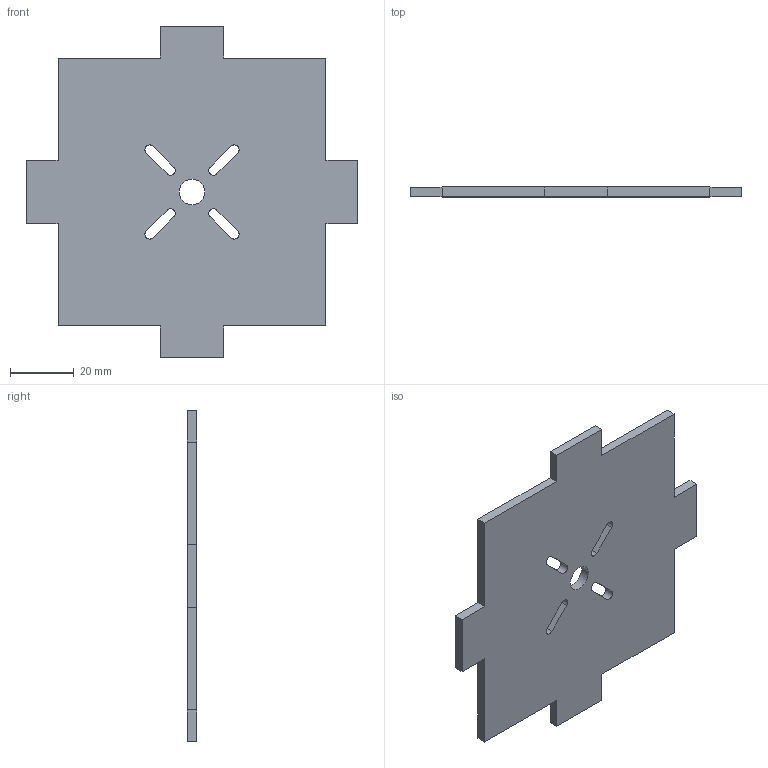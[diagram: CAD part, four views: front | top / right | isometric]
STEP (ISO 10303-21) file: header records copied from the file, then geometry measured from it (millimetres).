
FILE_DESCRIPTION(/* description */ (''),/* implementation_level */ '2;1');
FILE_NAME(/* name */ 'Motor Mount.step',/* time_stamp */ '2023-08-12T23:52:07+03:00',/* author */ (''),/* organization */ (''),/* preprocessor_version */ 'ST-DEVELOPER v20',/* originating_system */ 'Autodesk Translation Framework v12.9.0.99',/* authorisation */ '');
FILE_SCHEMA (('AUTOMOTIVE_DESIGN { 1 0 10303 214 3 1 1 }'));
Length unit declared in the file: millimetre
Products named in the file (1): Motor Mount
Bounding box: 104 x 3 x 104 mm (x, y, z)
Volume: 22999.4 mm3; surface area: 16991.4 mm2
Topology: 1 solids, 1 shells, 39 faces, 111 edges, 74 vertices
Faces by surface type: plane 30, cylinder 9
Full cylindrical faces by diameter (mm): 8 x1
Entity records: 1316 total; most frequent: CARTESIAN_POINT 225, ORIENTED_EDGE 222, DIRECTION 209, EDGE_CURVE 111, LINE 93, VECTOR 93, VERTEX_POINT 74, AXIS2_PLACEMENT_3D 58
